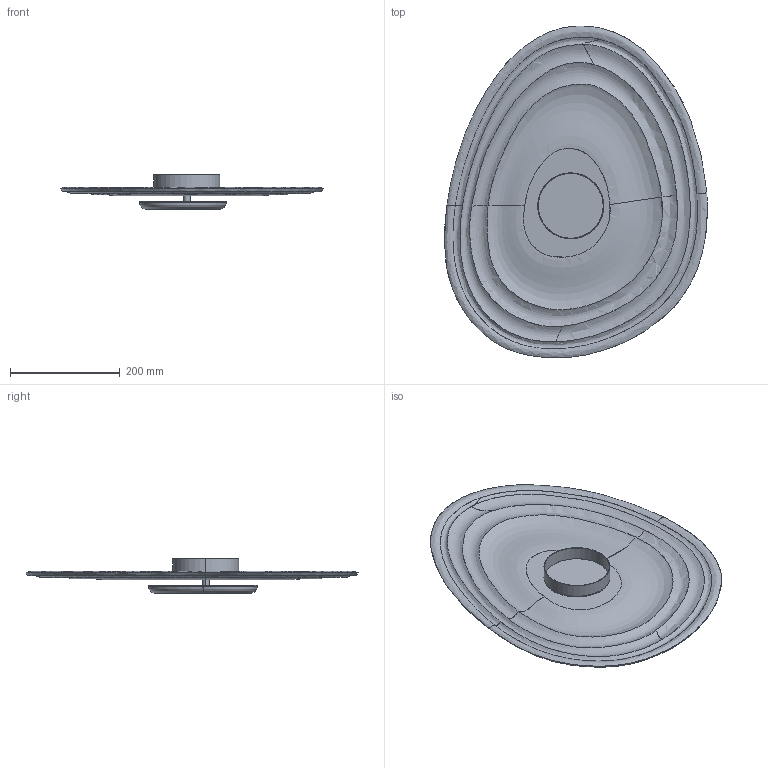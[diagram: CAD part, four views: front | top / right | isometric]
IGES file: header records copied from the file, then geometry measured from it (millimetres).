
Start section: SolidWorks IGES file using analytic representation for surfaces
Global section: file name: F:\燠隴矨\3D\12堎\Odeon Ceiling Lamp-L60.IGS; native system: SolidWorks 2022; preprocessor: SolidWorks 2022; author: MyPC; date: 231201.162405; units: millimetre
Bounding box: 478.58 x 604.48 x 63 mm (x, y, z)
Surface area: 583767.4 mm2 (no closed solid volume)
Topology: 0 solids, 0 shells, 46 faces, 3058 edges, 3058 vertices
Faces by surface type: bspline 40, revolution 6
